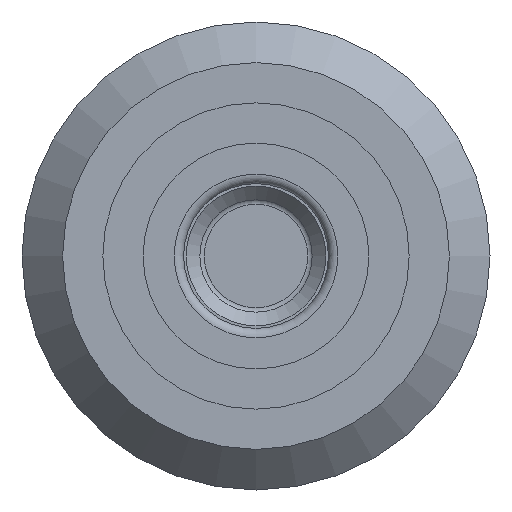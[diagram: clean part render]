
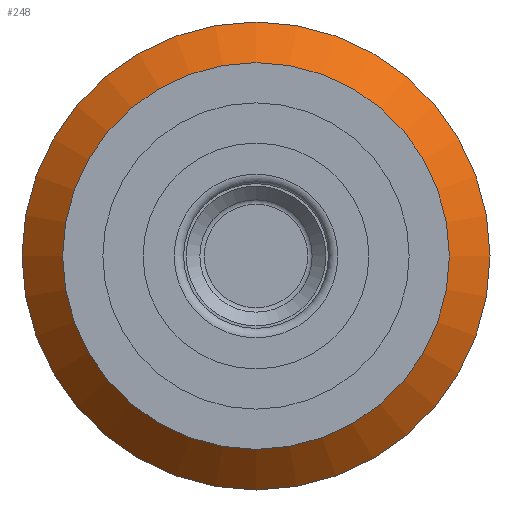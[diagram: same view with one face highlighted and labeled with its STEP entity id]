
A CAD part, left-side view. The second image highlights one B-rep face of the part: STEP entity #248.
In plain terms, the highlighted conical face has half-angle 45 degrees and reference radius 15.367 mm.
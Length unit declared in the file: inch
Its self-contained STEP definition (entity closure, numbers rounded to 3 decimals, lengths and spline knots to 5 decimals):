
#248 = ADVANCED_FACE( '', ( #518, #519 ), #520, .T. );
#518 = FACE_BOUND( '', #784, .T. );
#519 = FACE_OUTER_BOUND( '', #785, .T. );
#520 = CONICAL_SURFACE( '', #786, 0.605, 0.785 );
#784 = EDGE_LOOP( '', ( #1199 ) );
#785 = EDGE_LOOP( '', ( #1200 ) );
#786 = AXIS2_PLACEMENT_3D( '', #1201, #1202, #1203 );
#1199 = ORIENTED_EDGE( '', *, *, #1328, .T. );
#1200 = ORIENTED_EDGE( '', *, *, #1286, .F. );
#1201 = CARTESIAN_POINT( '', ( -0.114, 0., 0. ) );
#1202 = DIRECTION( '', ( 1., 0., 0. ) );
#1203 = DIRECTION( '', ( 0., 0., -1. ) );
#1286 = EDGE_CURVE( '', #1449, #1449, #1450, .T. );
#1328 = EDGE_CURVE( '', #1519, #1519, #1520, .T. );
#1449 = VERTEX_POINT( '', #1689 );
#1450 = CIRCLE( '', #1690, 0.605 );
#1519 = VERTEX_POINT( '', #1808 );
#1520 = CIRCLE( '', #1809, 0.5 );
#1689 = CARTESIAN_POINT( '', ( -0.114, 0., -0.605 ) );
#1690 = AXIS2_PLACEMENT_3D( '', #2047, #2048, #2049 );
#1808 = CARTESIAN_POINT( '', ( -0.219, 0., -0.5 ) );
#1809 = AXIS2_PLACEMENT_3D( '', #2109, #2110, #2111 );
#2047 = CARTESIAN_POINT( '', ( -0.114, 0., 0. ) );
#2048 = DIRECTION( '', ( 1., 0., 0. ) );
#2049 = DIRECTION( '', ( 0., 0., -1. ) );
#2109 = CARTESIAN_POINT( '', ( -0.219, 0., 0. ) );
#2110 = DIRECTION( '', ( 1., 0., 0. ) );
#2111 = DIRECTION( '', ( 0., 0., -1. ) );
